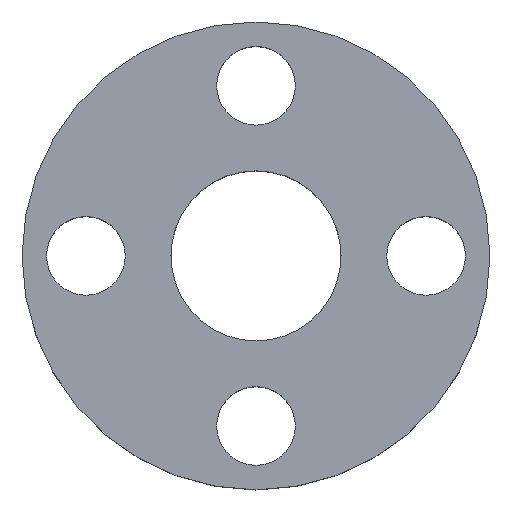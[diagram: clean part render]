
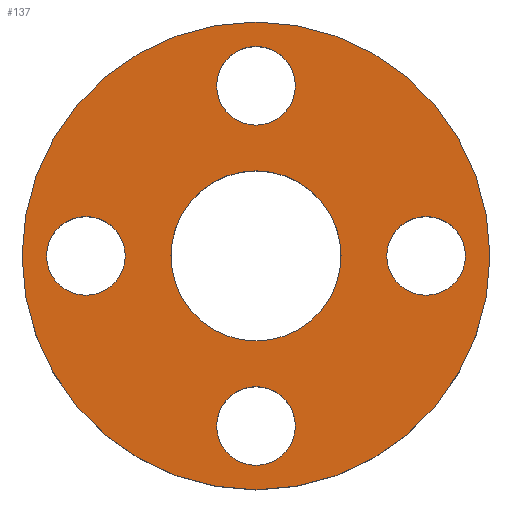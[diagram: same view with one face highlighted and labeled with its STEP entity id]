
A CAD part, top view. The second image highlights one B-rep face of the part: STEP entity #137.
In plain terms, the highlighted planar face has unit normal (0, 0, 1).
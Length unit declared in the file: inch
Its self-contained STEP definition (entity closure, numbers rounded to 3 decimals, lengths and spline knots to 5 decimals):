
#15=PLANE('',#165);
#23=FACE_BOUND('',#54,.T.);
#24=FACE_BOUND('',#55,.T.);
#25=FACE_BOUND('',#56,.T.);
#26=FACE_BOUND('',#57,.T.);
#27=FACE_BOUND('',#58,.T.);
#39=FACE_OUTER_BOUND('',#53,.T.);
#53=EDGE_LOOP('',(#113));
#54=EDGE_LOOP('',(#114));
#55=EDGE_LOOP('',(#115));
#56=EDGE_LOOP('',(#116));
#57=EDGE_LOOP('',(#117));
#58=EDGE_LOOP('',(#118));
#65=CIRCLE('',#148,0.15748);
#67=CIRCLE('',#151,0.07283);
#69=CIRCLE('',#154,0.07283);
#71=CIRCLE('',#157,0.07283);
#73=CIRCLE('',#160,0.07283);
#75=CIRCLE('',#163,0.43307);
#77=VERTEX_POINT('',#211);
#79=VERTEX_POINT('',#216);
#81=VERTEX_POINT('',#221);
#83=VERTEX_POINT('',#226);
#85=VERTEX_POINT('',#231);
#87=VERTEX_POINT('',#236);
#89=EDGE_CURVE('',#77,#77,#65,.T.);
#91=EDGE_CURVE('',#79,#79,#67,.T.);
#93=EDGE_CURVE('',#81,#81,#69,.T.);
#95=EDGE_CURVE('',#83,#83,#71,.T.);
#97=EDGE_CURVE('',#85,#85,#73,.T.);
#99=EDGE_CURVE('',#87,#87,#75,.T.);
#113=ORIENTED_EDGE('',*,*,#99,.T.);
#114=ORIENTED_EDGE('',*,*,#97,.F.);
#115=ORIENTED_EDGE('',*,*,#95,.F.);
#116=ORIENTED_EDGE('',*,*,#93,.F.);
#117=ORIENTED_EDGE('',*,*,#91,.F.);
#118=ORIENTED_EDGE('',*,*,#89,.F.);
#137=ADVANCED_FACE('',(#39,#23,#24,#25,#26,#27),#15,.T.);
#148=AXIS2_PLACEMENT_3D('',#212,#171,#172);
#151=AXIS2_PLACEMENT_3D('',#217,#177,#178);
#154=AXIS2_PLACEMENT_3D('',#222,#183,#184);
#157=AXIS2_PLACEMENT_3D('',#227,#189,#190);
#160=AXIS2_PLACEMENT_3D('',#232,#195,#196);
#163=AXIS2_PLACEMENT_3D('',#237,#201,#202);
#165=AXIS2_PLACEMENT_3D('',#240,#205,#206);
#171=DIRECTION('center_axis',(0.,0.,1.));
#172=DIRECTION('ref_axis',(1.,0.,0.));
#177=DIRECTION('center_axis',(0.,0.,1.));
#178=DIRECTION('ref_axis',(1.,0.,0.));
#183=DIRECTION('center_axis',(0.,0.,1.));
#184=DIRECTION('ref_axis',(1.,0.,0.));
#189=DIRECTION('center_axis',(0.,0.,1.));
#190=DIRECTION('ref_axis',(1.,0.,0.));
#195=DIRECTION('center_axis',(0.,0.,1.));
#196=DIRECTION('ref_axis',(1.,0.,0.));
#201=DIRECTION('center_axis',(0.,0.,1.));
#202=DIRECTION('ref_axis',(1.,0.,0.));
#205=DIRECTION('center_axis',(0.,0.,1.));
#206=DIRECTION('ref_axis',(1.,0.,0.));
#211=CARTESIAN_POINT('',(0.15748,0.,0.19685));
#212=CARTESIAN_POINT('Origin',(0.,0.,0.19685));
#216=CARTESIAN_POINT('',(0.07283,0.31496,0.19685));
#217=CARTESIAN_POINT('Origin',(0.,0.31496,0.19685));
#221=CARTESIAN_POINT('',(0.3878,0.,0.19685));
#222=CARTESIAN_POINT('Origin',(0.31496,0.,0.19685));
#226=CARTESIAN_POINT('',(0.07283,-0.31496,0.19685));
#227=CARTESIAN_POINT('Origin',(0.,-0.31496,
0.19685));
#231=CARTESIAN_POINT('',(-0.24213,0.,0.19685));
#232=CARTESIAN_POINT('Origin',(-0.31496,0.,0.19685));
#236=CARTESIAN_POINT('',(0.43307,0.,0.19685));
#237=CARTESIAN_POINT('Origin',(0.,0.,0.19685));
#240=CARTESIAN_POINT('Origin',(0.,0.,0.19685));
